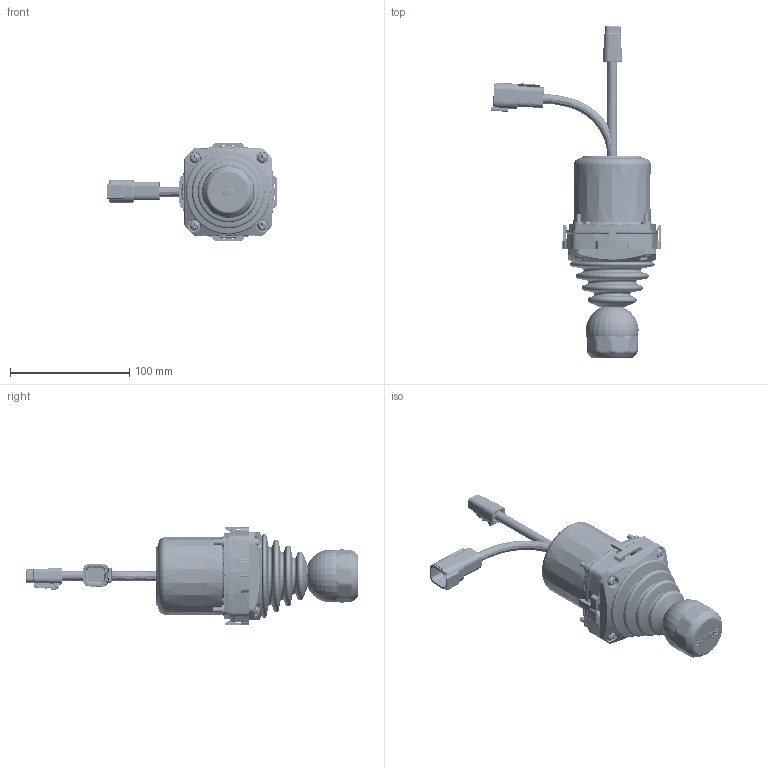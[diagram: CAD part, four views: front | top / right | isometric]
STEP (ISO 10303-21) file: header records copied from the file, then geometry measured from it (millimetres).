
FILE_DESCRIPTION (( 'STEP AP214' ), '1' );
FILE_NAME ('DUAL AXIS JOYSTICK.STEP', '2019-05-07T21:31:11', ( '' ), ( '' ), 'SwSTEP 2.0', 'SolidWorks 2014', '' );
FILE_SCHEMA (( 'AUTOMOTIVE_DESIGN' ));
Length unit declared in the file: inch
Products named in the file (136): AXIS LOCKOUT KEY; RS786-M01-01_NUT1; RM380-025-7; RM380-030-06C2; RP210-786-31; RM207-009-2; RM600-786-16; Spherical Handle; RM380-030-15; RM110-786-7; RM600-786-15; RM600-786-17; RP090-786-61; RM380-035-8; 95-0331-2; RM201-786-5; RM600-786-13; RP090-786-50; RS786-M01-01-194256; RP100-786-14; 95-0397-2; 95-7091-00_ASM1; RM110-786-8; RM501-786-5; RM401-040-36; 95-0329-3; RP090-786-39; RM380-020-8; RM120-786-14; RM201-712-5; RM600-786-12; c-dtm06-4s-99-3d; RM600-786-14; RM501-786-6; c-dtm04-6p-99-3d; RP010-786-60; RM501-786-12; Part5^DUAL AXIS JOYSTICK; RP130-786-40; DUAL AXIS JOYSTICK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
Assembly tree (91 placements, depth 3):
  RS786-M01-01_NUT1
  RM380-030-06C2
  RP210-786-31
  RM600-786-16
  RS786-M01-01_NUT1
Bounding box: 143.14 x 278.18 x 82.49 mm (x, y, z)
Volume: 232657.1 mm3; surface area: 208384.6 mm2
Topology: 75 solids, 98 shells, 6454 faces, 17212 edges, 11126 vertices
Faces by surface type: plane 2428, cylinder 2100, cone 676, bspline 528, torus 451, sphere 271
Entity records: 283881 total; most frequent: CARTESIAN_POINT 116858, ORIENTED_EDGE 27056, DIRECTION 20114, EDGE_CURVE 13528, VERTEX_POINT 8694, AXIS2_PLACEMENT_3D 7402, EDGE_LOOP 5544, VECTOR 5310
